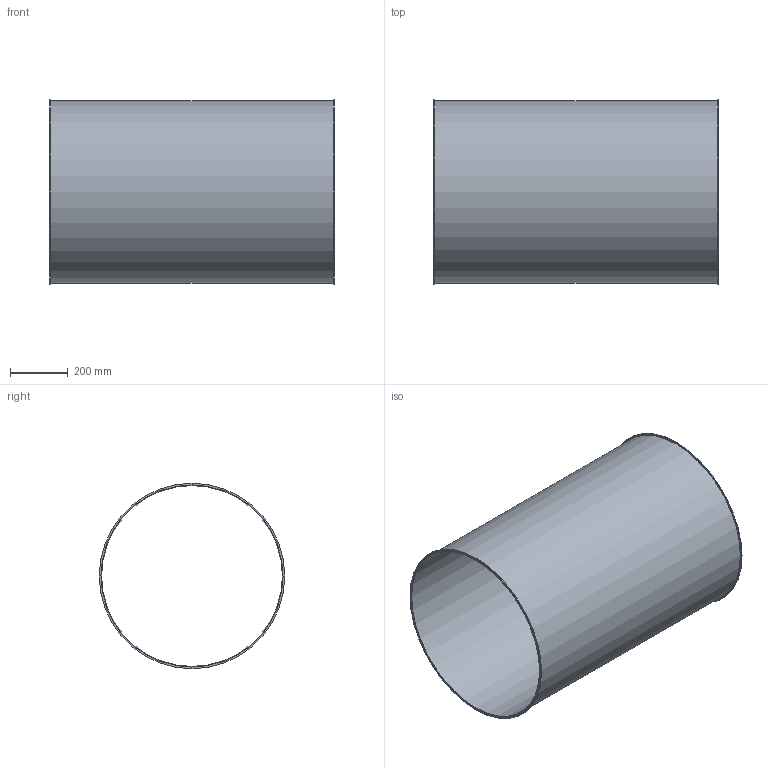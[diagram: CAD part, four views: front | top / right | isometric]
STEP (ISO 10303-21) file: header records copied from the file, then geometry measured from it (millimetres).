
FILE_DESCRIPTION((''),'2;1');
FILE_NAME('U:\Wolfgang\Marcel-3D\fertig\Kapitel 1\6321002.stp','2010-05-31T12:40:17',('TK2'),(''),'Autodesk Inventor 2010','Autodesk Inventor 2010','');
FILE_SCHEMA(('AUTOMOTIVE_DESIGN { 1 0 10303 214 1 1 1 1 }'));
Length unit declared in the file: millimetre
Products named in the file (1): 6321002
Bounding box: 986 x 644 x 644 mm (x, y, z)
Volume: 3951093.1 mm3; surface area: 3959160.7 mm2
Topology: 1 solids, 1 shells, 8 faces, 12 edges, 8 vertices
Faces by surface type: cylinder 4, plane 4
Full cylindrical faces by diameter (mm): 628 x1, 632 x1, 644 x2
Entity records: 194 total; most frequent: DIRECTION 34, CARTESIAN_POINT 25, AXIS2_PLACEMENT_3D 17, ORIENTED_EDGE 16, EDGE_LOOP 16, VERTEX_POINT 8, CIRCLE 8, EDGE_CURVE 8
